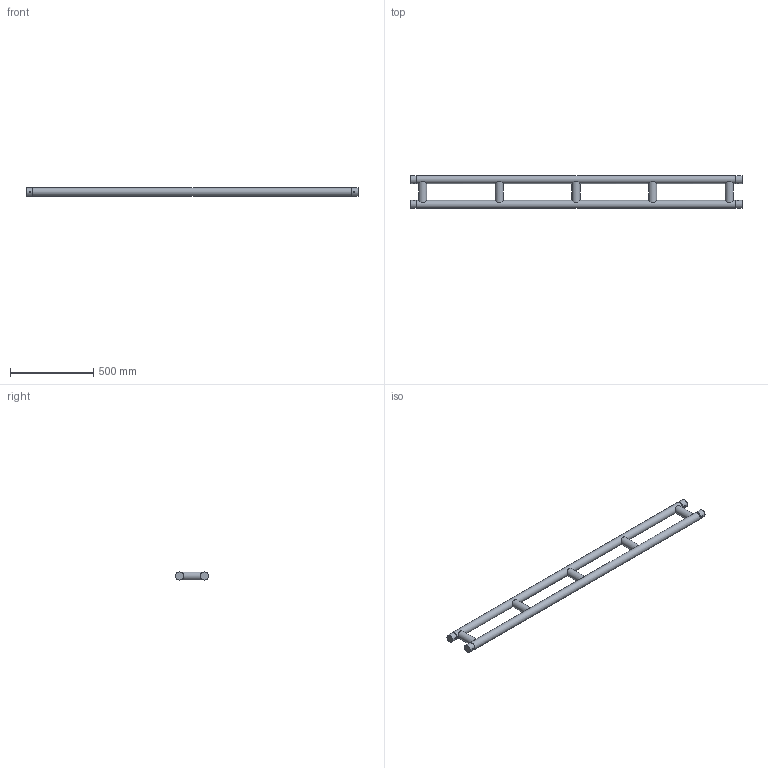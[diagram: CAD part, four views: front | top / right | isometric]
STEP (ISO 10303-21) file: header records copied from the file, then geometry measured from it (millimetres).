
FILE_DESCRIPTION(/* description */ (''),/* implementation_level */ '2;1');
FILE_NAME(/* name */ 'C:\Users\adrian.toca\Desktop\111050538.stp',/* time_stamp */ '2016-09-30T12:44:05+03:00',/* author */ ('adrian.toca'),/* organization */ (''),/* preprocessor_version */ 'ST-DEVELOPER v15.6',/* originating_system */ 'Autodesk Inventor 2015',/* authorisation */ '');
FILE_SCHEMA (('AUTOMOTIVE_DESIGN { 1 0 10303 214 3 1 1 }'));
Length unit declared in the file: millimetre
Products named in the file (1): 260031047
Bounding box: 2000 x 198.3 x 48.3 mm (x, y, z)
Volume: 8306903.8 mm3; surface area: 689997.2 mm2
Topology: 1 solids, 1 shells, 47 faces, 125 edges, 82 vertices
Faces by surface type: plane 28, cylinder 15, cone 4
Full cylindrical faces by diameter (mm): 10 x4, 48.3 x11
Entity records: 1664 total; most frequent: CARTESIAN_POINT 492, DIRECTION 228, ORIENTED_EDGE 184, AXIS2_PLACEMENT_3D 104, EDGE_CURVE 92, EDGE_LOOP 88, VERTEX_POINT 72, STYLED_ITEM 48
